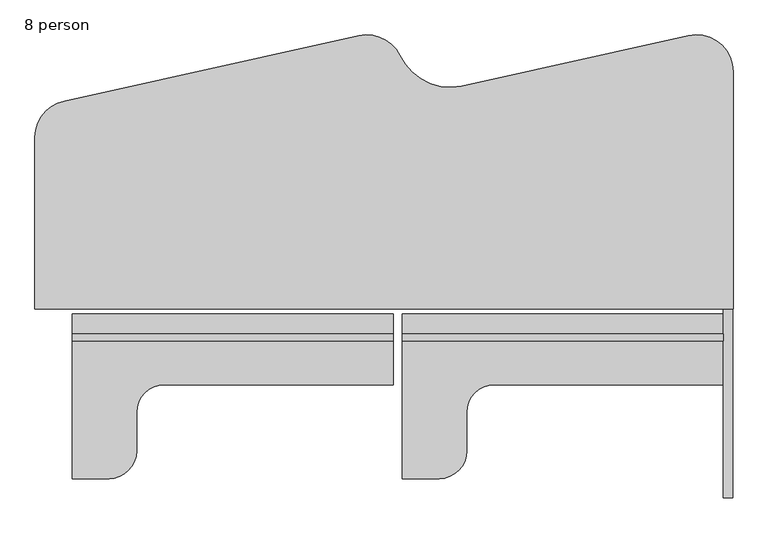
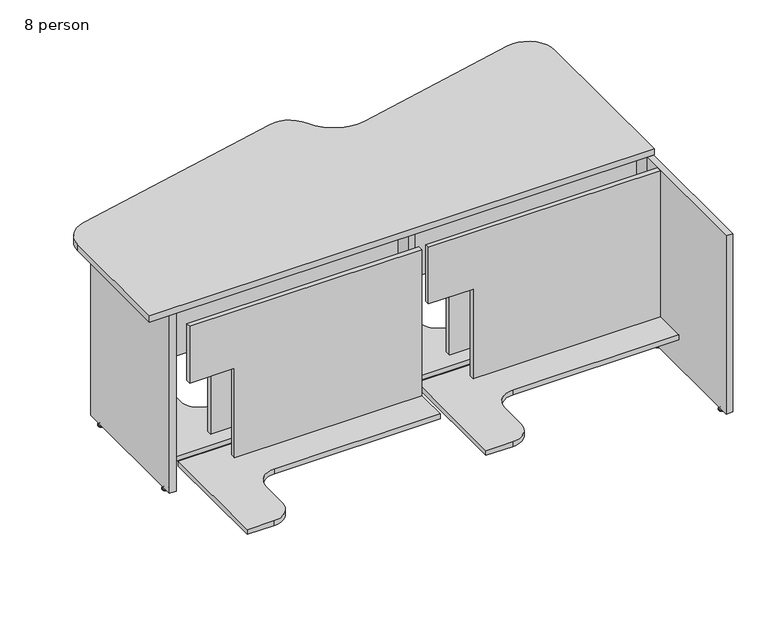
"""IFC4 building model written with IfcOpenShell, lengths in millimetres: furniture geometry, Nova Solutions - Collaboration Table - Keystone_8-11 person : 8 person."""

from ifc_helpers import new_model, si_unit, point, frame, frame_2d, origin, place, context, project, spatial, polyline, circle_curve, ellipse_curve, trimmed, segment, composite_curve, outline, extrude, source, transform, mapped, element, save
from ifc_brep_helpers import plane_surface, cylinder_surface, revolved_surface, advanced_brep


def furniture_8_person_18e800c8(model_context):
    return source(origin(), model_context, "Body", "SolidModel", [
        extrude(outline(polyline([(145.5, 443.55), (736.3, 443.55), (736.3, -443.55), (507.4, -443.55), (507.4, -272.55), (145.5, -272.55), (145.5, 443.55)])), frame((0.0, 69.345, 0.0), z_axis=(0.0, 1.0, 0.0), x_axis=(0.0, 0.0, 1.0)), (0.0, 0.0, 1.0), 19.2),
        extrude(outline(composite_curve([segment(polyline([(443.55, 14.045), (-443.55, 14.045), (-443.55, 469.9075), (-341.95, 469.9075)]), True, "CONTINUOUS"), segment(trimmed(circle_curve(frame_2d((-341.95, 393.7075)), 76.2), [point((-341.95, 469.9075))], [point((-265.75, 393.7075))], False, "CARTESIAN"), True, "CONTINUOUS"), segment(polyline([(-265.75, 393.7075), (-265.75, 286.545)]), True, "CONTINUOUS"), segment(trimmed(circle_curve(frame_2d((-189.55, 286.545)), 76.2), [point((-265.75, 286.545))], [point((-189.55, 210.345))], True, "CARTESIAN"), True, "CONTINUOUS"), segment(polyline([(-189.55, 210.345), (443.55, 210.345), (443.55, 14.045)]), True, "CONTINUOUS")], self_intersect=False)), frame((0.0, 0.0, 126.3), z_axis=(0.0, 0.0, 1.0), x_axis=(1.0, 0.0, 0.0)), (0.0, 0.0, 1.0), 19.2),
        advanced_brep(
        [(463.0776506, 474.3309375, 11.1125), (456.4, 474.3309375, 11.1125), (449.7223494, 474.3309375, 11.1125), (463.0776506, 474.3309375, 9.525), (449.7223494, 474.3309375, 9.525), (468.2855135, 474.3309375, 4.7748687), (444.5144865, 474.3309375, 4.7748687), (469.1466506, 474.3309375, 3.989419), (443.6533494, 474.3309375, 3.989419), (469.1466506, 474.3309375, 3.175), (443.6533494, 474.3309375, 3.175), (468.2959119, 474.3309375, 0.0), (444.5040881, 474.3309375, 0.0), (456.4, 474.3309375, 0.0)],
        [
            (0, 1),
            (1, 2),
            (2, 0, circle_curve(frame((456.4, 474.3309375, 11.1125), z_axis=(0.0, 0.0, 1.0), x_axis=(-1.0, 0.0, 0.0)), 6.6776506)),
            (0, 2, circle_curve(frame((456.4, 474.3309375, 11.1125), z_axis=(0.0, 0.0, 1.0), x_axis=(-1.0, 0.0, 0.0)), 6.6776506)),
            (3, 0),
            (2, 4),
            (4, 3, circle_curve(frame((456.4, 474.3309375, 9.525), z_axis=(0.0, 0.0, 1.0), x_axis=(-1.0, 0.0, 0.0)), 6.6776506)),
            (3, 4, circle_curve(frame((456.4, 474.3309375, 9.525), z_axis=(0.0, 0.0, 1.0), x_axis=(-1.0, 0.0, 0.0)), 6.6776506)),
            (5, 3, circle_curve(frame((469.3320627, 474.3309375, 11.1521822), z_axis=(0.0, 1.0, 0.0), x_axis=(-1.0, 0.0, 0.0)), 6.462615)),
            (4, 6, circle_curve(frame((443.4679373, 474.3309375, 11.1521822), z_axis=(0.0, 1.0, 0.0), x_axis=(1.0, 0.0, 0.0)), 6.462615)),
            (6, 5, circle_curve(frame((456.4, 474.3309375, 4.7748687), z_axis=(0.0, 0.0, 1.0), x_axis=(-1.0, 0.0, 0.0)), 11.8855135)),
            (5, 6, circle_curve(frame((456.4, 474.3309375, 4.7748687), z_axis=(0.0, 0.0, 1.0), x_axis=(-1.0, 0.0, 0.0)), 11.8855135)),
            (7, 5, circle_curve(frame((468.1124632, 474.3309375, 3.7203591), z_axis=(0.0, -1.0, 0.0), x_axis=(-1.0, 0.0, 0.0)), 1.0686145)),
            (6, 8, circle_curve(frame((444.6875368, 474.3309375, 3.7203591), z_axis=(0.0, -1.0, 0.0), x_axis=(1.0, 0.0, 0.0)), 1.0686145)),
            (8, 7, circle_curve(frame((456.4, 474.3309375, 3.989419), z_axis=(0.0, 0.0, 1.0), x_axis=(-1.0, 0.0, 0.0)), 12.7466506)),
            (7, 8, circle_curve(frame((456.4, 474.3309375, 3.989419), z_axis=(0.0, 0.0, 1.0), x_axis=(-1.0, 0.0, 0.0)), 12.7466506)),
            (9, 7),
            (8, 10),
            (10, 9, circle_curve(frame((456.4, 474.3309375, 3.175), z_axis=(0.0, 0.0, 1.0), x_axis=(-1.0, 0.0, 0.0)), 12.7466506)),
            (9, 10, circle_curve(frame((456.4, 474.3309375, 3.175), z_axis=(0.0, 0.0, 1.0), x_axis=(-1.0, 0.0, 0.0)), 12.7466506)),
            (11, 9),
            (10, 12),
            (12, 11, circle_curve(frame((456.4, 474.3309375, 0.0), z_axis=(0.0, 0.0, 1.0), x_axis=(-1.0, 0.0, 0.0)), 11.8959119)),
            (11, 12, circle_curve(frame((456.4, 474.3309375, 0.0), z_axis=(0.0, 0.0, 1.0), x_axis=(-1.0, 0.0, 0.0)), 11.8959119)),
            (13, 11),
            (12, 13),
        ],
        [
            plane_surface(frame((456.4, 474.3309375, 11.1125), z_axis=(0.0, 0.0, 1.0), x_axis=(-1.0, 0.0, 0.0))),
            cylinder_surface(frame((456.4, 474.3309375, 43.2095994), z_axis=(0.0, 0.0, -1.0), x_axis=(-1.0, 0.0, 0.0)), 6.6776506),
            revolved_surface(trimmed(ellipse_curve(frame((443.4679373, 474.3309375, 11.1521822), z_axis=(0.0, 1.0, 0.0), x_axis=(1.0, 0.0, 0.0)), 6.462615, 6.462615), [point((449.7223494, 474.3309375, 9.525))], [point((444.5144865, 474.3309375, 4.7748687))], True, "CARTESIAN"), (456.4, 474.3309375, 43.2095994), (0.0, 0.0, -1.0)),
            revolved_surface(trimmed(ellipse_curve(frame((444.6875368, 474.3309375, 3.7203591), z_axis=(0.0, -1.0, 0.0), x_axis=(1.0, 0.0, 0.0)), 1.0686145, 1.0686145), [point((444.5144865, 474.3309375, 4.7748687))], [point((443.6533494, 474.3309375, 3.989419))], True, "CARTESIAN"), (456.4, 474.3309375, 43.2095994), (0.0, 0.0, -1.0)),
            cylinder_surface(frame((456.4, 474.3309375, 43.2095994), z_axis=(0.0, 0.0, -1.0), x_axis=(-1.0, 0.0, 0.0)), 12.7466506),
            revolved_surface(polyline([(443.6533494, 474.3309375, 3.175), (444.5040881, 474.3309375, 0.0)]), (456.4, 474.3309375, 43.2095994), (0.0, 0.0, -1.0)),
            plane_surface(frame((456.4, 474.3309375, 0.0), z_axis=(0.0, 0.0, -1.0), x_axis=(-1.0, 0.0, 0.0))),
        ],
        [
            (0, [[1, 2, 3]]),
            (0, [[-2, -1, 4]]),
            (1, [[5, -3, 6, 7]]),
            (1, [[-6, -4, -5, 8]]),
            (2, [[9, -7, 10, 11]]),
            (2, [[-10, -8, -9, 12]]),
            (3, [[13, -11, 14, 15]]),
            (3, [[-14, -12, -13, 16]]),
            (4, [[17, -15, 18, 19]]),
            (4, [[-18, -16, -17, 20]]),
            (5, [[21, -19, 22, 23]]),
            (5, [[-22, -20, -21, 24]]),
            (6, [[25, -23, 26]]),
            (6, [[-26, -24, -25]]),
        ],
    ),
        advanced_brep(
        [(463.0776506, 50.3590625, 11.1125), (456.4, 50.3590625, 11.1125), (449.7223494, 50.3590625, 11.1125), (463.0776506, 50.3590625, 9.525), (449.7223494, 50.3590625, 9.525), (468.2855135, 50.3590625, 4.7748687), (444.5144865, 50.3590625, 4.7748687), (469.1466506, 50.3590625, 3.989419), (443.6533494, 50.3590625, 3.989419), (469.1466506, 50.3590625, 3.175), (443.6533494, 50.3590625, 3.175), (468.2959119, 50.3590625, 0.0), (444.5040881, 50.3590625, 0.0), (456.4, 50.3590625, 0.0)],
        [
            (0, 1),
            (1, 2),
            (2, 0, circle_curve(frame((456.4, 50.3590625, 11.1125), z_axis=(0.0, 0.0, 1.0), x_axis=(-1.0, 0.0, 0.0)), 6.6776506)),
            (0, 2, circle_curve(frame((456.4, 50.3590625, 11.1125), z_axis=(0.0, 0.0, 1.0), x_axis=(-1.0, 0.0, 0.0)), 6.6776506)),
            (3, 0),
            (2, 4),
            (4, 3, circle_curve(frame((456.4, 50.3590625, 9.525), z_axis=(0.0, 0.0, 1.0), x_axis=(-1.0, 0.0, 0.0)), 6.6776506)),
            (3, 4, circle_curve(frame((456.4, 50.3590625, 9.525), z_axis=(0.0, 0.0, 1.0), x_axis=(-1.0, 0.0, 0.0)), 6.6776506)),
            (5, 3, circle_curve(frame((469.3320627, 50.3590625, 11.1521822), z_axis=(0.0, 1.0, 0.0), x_axis=(-1.0, 0.0, 0.0)), 6.462615)),
            (4, 6, circle_curve(frame((443.4679373, 50.3590625, 11.1521822), z_axis=(0.0, 1.0, 0.0), x_axis=(1.0, 0.0, 0.0)), 6.462615)),
            (6, 5, circle_curve(frame((456.4, 50.3590625, 4.7748687), z_axis=(0.0, 0.0, 1.0), x_axis=(-1.0, 0.0, 0.0)), 11.8855135)),
            (5, 6, circle_curve(frame((456.4, 50.3590625, 4.7748687), z_axis=(0.0, 0.0, 1.0), x_axis=(-1.0, 0.0, 0.0)), 11.8855135)),
            (7, 5, circle_curve(frame((468.1124632, 50.3590625, 3.7203591), z_axis=(0.0, -1.0, 0.0), x_axis=(-1.0, 0.0, 0.0)), 1.0686145)),
            (6, 8, circle_curve(frame((444.6875368, 50.3590625, 3.7203591), z_axis=(0.0, -1.0, 0.0), x_axis=(1.0, 0.0, 0.0)), 1.0686145)),
            (8, 7, circle_curve(frame((456.4, 50.3590625, 3.989419), z_axis=(0.0, 0.0, 1.0), x_axis=(-1.0, 0.0, 0.0)), 12.7466506)),
            (7, 8, circle_curve(frame((456.4, 50.3590625, 3.989419), z_axis=(0.0, 0.0, 1.0), x_axis=(-1.0, 0.0, 0.0)), 12.7466506)),
            (9, 7),
            (8, 10),
            (10, 9, circle_curve(frame((456.4, 50.3590625, 3.175), z_axis=(0.0, 0.0, 1.0), x_axis=(-1.0, 0.0, 0.0)), 12.7466506)),
            (9, 10, circle_curve(frame((456.4, 50.3590625, 3.175), z_axis=(0.0, 0.0, 1.0), x_axis=(-1.0, 0.0, 0.0)), 12.7466506)),
            (11, 9),
            (10, 12),
            (12, 11, circle_curve(frame((456.4, 50.3590625, 0.0), z_axis=(0.0, 0.0, 1.0), x_axis=(-1.0, 0.0, 0.0)), 11.8959119)),
            (11, 12, circle_curve(frame((456.4, 50.3590625, 0.0), z_axis=(0.0, 0.0, 1.0), x_axis=(-1.0, 0.0, 0.0)), 11.8959119)),
            (13, 11),
            (12, 13),
        ],
        [
            plane_surface(frame((456.4, 50.3590625, 11.1125), z_axis=(0.0, 0.0, 1.0), x_axis=(-1.0, 0.0, 0.0))),
            cylinder_surface(frame((456.4, 50.3590625, 43.2095994), z_axis=(0.0, 0.0, -1.0), x_axis=(-1.0, 0.0, 0.0)), 6.6776506),
            revolved_surface(trimmed(ellipse_curve(frame((443.4679373, 50.3590625, 11.1521822), z_axis=(0.0, 1.0, 0.0), x_axis=(1.0, 0.0, 0.0)), 6.462615, 6.462615), [point((449.7223494, 50.3590625, 9.525))], [point((444.5144865, 50.3590625, 4.7748687))], True, "CARTESIAN"), (456.4, 50.3590625, 43.2095994), (0.0, 0.0, -1.0)),
            revolved_surface(trimmed(ellipse_curve(frame((444.6875368, 50.3590625, 3.7203591), z_axis=(0.0, -1.0, 0.0), x_axis=(1.0, 0.0, 0.0)), 1.0686145, 1.0686145), [point((444.5144865, 50.3590625, 4.7748687))], [point((443.6533494, 50.3590625, 3.989419))], True, "CARTESIAN"), (456.4, 50.3590625, 43.2095994), (0.0, 0.0, -1.0)),
            cylinder_surface(frame((456.4, 50.3590625, 43.2095994), z_axis=(0.0, 0.0, -1.0), x_axis=(-1.0, 0.0, 0.0)), 12.7466506),
            revolved_surface(polyline([(443.6533494, 50.3590625, 3.175), (444.5040881, 50.3590625, 0.0)]), (456.4, 50.3590625, 43.2095994), (0.0, 0.0, -1.0)),
            plane_surface(frame((456.4, 50.3590625, 0.0), z_axis=(0.0, 0.0, -1.0), x_axis=(-1.0, 0.0, 0.0))),
        ],
        [
            (0, [[1, 2, 3]]),
            (0, [[-2, -1, 4]]),
            (1, [[5, -3, 6, 7]]),
            (1, [[-6, -4, -5, 8]]),
            (2, [[9, -7, 10, 11]]),
            (2, [[-10, -8, -9, 12]]),
            (3, [[13, -11, 14, 15]]),
            (3, [[-14, -12, -13, 16]]),
            (4, [[17, -15, 18, 19]]),
            (4, [[-18, -16, -17, 20]]),
            (5, [[21, -19, 22, 23]]),
            (5, [[-22, -20, -21, 24]]),
            (6, [[25, -23, 26]]),
            (6, [[-26, -24, -25]]),
        ],
    ),
        extrude(outline(polyline([(469.25, 1.345), (443.55, 1.345), (443.55, 523.345), (469.25, 523.345), (469.25, 1.345)])), frame((0.0, 0.0, 15.6), z_axis=(0.0, 0.0, 1.0), x_axis=(1.0, 0.0, 0.0)), (0.0, 0.0, 1.0), 720.7),
        extrude(outline(polyline([(736.3, -469.25), (736.3, -1356.45), (507.4, -1356.45), (507.4, -1185.45), (145.5, -1185.45), (145.5, -469.25), (736.3, -469.25)])), frame((0.0, 69.345, 0.0), z_axis=(0.0, 1.0, 0.0), x_axis=(0.0, 0.0, 1.0)), (0.0, 0.0, 1.0), 19.2),
        extrude(outline(composite_curve([segment(polyline([(-1356.45, 469.9075), (-1254.85, 469.9075)]), True, "CONTINUOUS"), segment(trimmed(circle_curve(frame_2d((-1254.85, 393.7075)), 76.2), [point((-1254.85, 469.9075))], [point((-1178.65, 393.7075))], False, "CARTESIAN"), True, "CONTINUOUS"), segment(polyline([(-1178.65, 393.7075), (-1178.65, 286.545)]), True, "CONTINUOUS"), segment(trimmed(circle_curve(frame_2d((-1102.45, 286.545)), 76.2), [point((-1178.65, 286.545))], [point((-1102.45, 210.345))], True, "CARTESIAN"), True, "CONTINUOUS"), segment(polyline([(-1102.45, 210.345), (-469.25, 210.345), (-469.25, 14.045), (-1356.45, 14.045), (-1356.45, 469.9075)]), True, "CONTINUOUS")], self_intersect=False)), frame((0.0, 0.0, 126.3), z_axis=(0.0, 0.0, 1.0), x_axis=(1.0, 0.0, 0.0)), (0.0, 0.0, 1.0), 19.2),
        advanced_brep(
        [(-1375.9776506, 474.3309375, 11.1125), (-1362.6223494, 474.3309375, 11.1125), (-1369.3, 474.3309375, 11.1125), (-1375.9776506, 474.3309375, 9.525), (-1362.6223494, 474.3309375, 9.525), (-1381.1855135, 474.3309375, 4.7748687), (-1357.4144865, 474.3309375, 4.7748687), (-1382.0466506, 474.3309375, 3.989419), (-1356.5533494, 474.3309375, 3.989419), (-1382.0466506, 474.3309375, 3.175), (-1356.5533494, 474.3309375, 3.175), (-1381.1959119, 474.3309375, 0.0), (-1357.4040881, 474.3309375, 0.0), (-1369.3, 474.3309375, 0.0)],
        [
            (0, 1, circle_curve(frame((-1369.3, 474.3309375, 11.1125), z_axis=(0.0, 0.0, 1.0), x_axis=(1.0, 0.0, 0.0)), 6.6776506)),
            (1, 2),
            (2, 0),
            (1, 0, circle_curve(frame((-1369.3, 474.3309375, 11.1125), z_axis=(0.0, 0.0, 1.0), x_axis=(1.0, 0.0, 0.0)), 6.6776506)),
            (3, 4, circle_curve(frame((-1369.3, 474.3309375, 9.525), z_axis=(0.0, 0.0, 1.0), x_axis=(1.0, 0.0, 0.0)), 6.6776506)),
            (4, 1),
            (0, 3),
            (4, 3, circle_curve(frame((-1369.3, 474.3309375, 9.525), z_axis=(0.0, 0.0, 1.0), x_axis=(1.0, 0.0, 0.0)), 6.6776506)),
            (5, 6, circle_curve(frame((-1369.3, 474.3309375, 4.7748687), z_axis=(0.0, 0.0, 1.0), x_axis=(1.0, 0.0, 0.0)), 11.8855135)),
            (6, 4, circle_curve(frame((-1356.3679373, 474.3309375, 11.1521822), z_axis=(0.0, 1.0, 0.0), x_axis=(-1.0, 0.0, 0.0)), 6.462615)),
            (3, 5, circle_curve(frame((-1382.2320627, 474.3309375, 11.1521822), z_axis=(0.0, 1.0, 0.0), x_axis=(1.0, 0.0, 0.0)), 6.462615)),
            (6, 5, circle_curve(frame((-1369.3, 474.3309375, 4.7748687), z_axis=(0.0, 0.0, 1.0), x_axis=(1.0, 0.0, 0.0)), 11.8855135)),
            (7, 8, circle_curve(frame((-1369.3, 474.3309375, 3.989419), z_axis=(0.0, 0.0, 1.0), x_axis=(1.0, 0.0, 0.0)), 12.7466506)),
            (8, 6, circle_curve(frame((-1357.5875368, 474.3309375, 3.7203591), z_axis=(0.0, -1.0, 0.0), x_axis=(-1.0, 0.0, 0.0)), 1.0686145)),
            (5, 7, circle_curve(frame((-1381.0124632, 474.3309375, 3.7203591), z_axis=(0.0, -1.0, 0.0), x_axis=(1.0, 0.0, 0.0)), 1.0686145)),
            (8, 7, circle_curve(frame((-1369.3, 474.3309375, 3.989419), z_axis=(0.0, 0.0, 1.0), x_axis=(1.0, 0.0, 0.0)), 12.7466506)),
            (9, 10, circle_curve(frame((-1369.3, 474.3309375, 3.175), z_axis=(0.0, 0.0, 1.0), x_axis=(1.0, 0.0, 0.0)), 12.7466506)),
            (10, 8),
            (7, 9),
            (10, 9, circle_curve(frame((-1369.3, 474.3309375, 3.175), z_axis=(0.0, 0.0, 1.0), x_axis=(1.0, 0.0, 0.0)), 12.7466506)),
            (11, 12, circle_curve(frame((-1369.3, 474.3309375, 0.0), z_axis=(0.0, 0.0, 1.0), x_axis=(1.0, 0.0, 0.0)), 11.8959119)),
            (12, 10),
            (9, 11),
            (12, 11, circle_curve(frame((-1369.3, 474.3309375, 0.0), z_axis=(0.0, 0.0, 1.0), x_axis=(1.0, 0.0, 0.0)), 11.8959119)),
            (13, 12),
            (11, 13),
        ],
        [
            plane_surface(frame((-1369.3, 474.3309375, 11.1125), z_axis=(0.0, 0.0, 1.0), x_axis=(1.0, 0.0, 0.0))),
            cylinder_surface(frame((-1369.3, 474.3309375, 43.2095994), z_axis=(0.0, 0.0, -1.0), x_axis=(1.0, 0.0, 0.0)), 6.6776506),
            revolved_surface(trimmed(ellipse_curve(frame((-1356.3679373, 474.3309375, 11.1521822), z_axis=(0.0, -1.0, 0.0), x_axis=(-1.0, 0.0, 0.0)), 6.462615, 6.462615), [point((-1362.6223494, 474.3309375, 9.525))], [point((-1357.4144865, 474.3309375, 4.7748687))], True, "CARTESIAN"), (-1369.3, 474.3309375, 43.2095994), (0.0, 0.0, -1.0)),
            revolved_surface(trimmed(ellipse_curve(frame((-1357.5875368, 474.3309375, 3.7203591), z_axis=(0.0, 1.0, 0.0), x_axis=(-1.0, 0.0, 0.0)), 1.0686145, 1.0686145), [point((-1357.4144865, 474.3309375, 4.7748687))], [point((-1356.5533494, 474.3309375, 3.989419))], True, "CARTESIAN"), (-1369.3, 474.3309375, 43.2095994), (0.0, 0.0, -1.0)),
            cylinder_surface(frame((-1369.3, 474.3309375, 43.2095994), z_axis=(0.0, 0.0, -1.0), x_axis=(1.0, 0.0, 0.0)), 12.7466506),
            revolved_surface(polyline([(-1356.5533494, 474.3309375, 3.175), (-1357.4040881, 474.3309375, 0.0)]), (-1369.3, 474.3309375, 43.2095994), (0.0, 0.0, -1.0)),
            plane_surface(frame((-1369.3, 474.3309375, 0.0), z_axis=(0.0, 0.0, -1.0), x_axis=(1.0, 0.0, 0.0))),
        ],
        [
            (0, [[1, 2, 3]]),
            (0, [[4, -3, -2]]),
            (1, [[5, 6, -1, 7]]),
            (1, [[8, -7, -4, -6]]),
            (2, [[9, 10, -5, 11]]),
            (2, [[12, -11, -8, -10]]),
            (3, [[13, 14, -9, 15]]),
            (3, [[16, -15, -12, -14]]),
            (4, [[17, 18, -13, 19]]),
            (4, [[20, -19, -16, -18]]),
            (5, [[21, 22, -17, 23]]),
            (5, [[24, -23, -20, -22]]),
            (6, [[25, -21, 26]]),
            (6, [[-26, -24, -25]]),
        ],
    ),
        advanced_brep(
        [(-1375.9776506, 50.3590625, 11.1125), (-1362.6223494, 50.3590625, 11.1125), (-1369.3, 50.3590625, 11.1125), (-1375.9776506, 50.3590625, 9.525), (-1362.6223494, 50.3590625, 9.525), (-1381.1855135, 50.3590625, 4.7748687), (-1357.4144865, 50.3590625, 4.7748687), (-1382.0466506, 50.3590625, 3.989419), (-1356.5533494, 50.3590625, 3.989419), (-1382.0466506, 50.3590625, 3.175), (-1356.5533494, 50.3590625, 3.175), (-1381.1959119, 50.3590625, 0.0), (-1357.4040881, 50.3590625, 0.0), (-1369.3, 50.3590625, 0.0)],
        [
            (0, 1, circle_curve(frame((-1369.3, 50.3590625, 11.1125), z_axis=(0.0, 0.0, 1.0), x_axis=(1.0, 0.0, 0.0)), 6.6776506)),
            (1, 2),
            (2, 0),
            (1, 0, circle_curve(frame((-1369.3, 50.3590625, 11.1125), z_axis=(0.0, 0.0, 1.0), x_axis=(1.0, 0.0, 0.0)), 6.6776506)),
            (3, 4, circle_curve(frame((-1369.3, 50.3590625, 9.525), z_axis=(0.0, 0.0, 1.0), x_axis=(1.0, 0.0, 0.0)), 6.6776506)),
            (4, 1),
            (0, 3),
            (4, 3, circle_curve(frame((-1369.3, 50.3590625, 9.525), z_axis=(0.0, 0.0, 1.0), x_axis=(1.0, 0.0, 0.0)), 6.6776506)),
            (5, 6, circle_curve(frame((-1369.3, 50.3590625, 4.7748687), z_axis=(0.0, 0.0, 1.0), x_axis=(1.0, 0.0, 0.0)), 11.8855135)),
            (6, 4, circle_curve(frame((-1356.3679373, 50.3590625, 11.1521822), z_axis=(0.0, 1.0, 0.0), x_axis=(-1.0, 0.0, 0.0)), 6.462615)),
            (3, 5, circle_curve(frame((-1382.2320627, 50.3590625, 11.1521822), z_axis=(0.0, 1.0, 0.0), x_axis=(1.0, 0.0, 0.0)), 6.462615)),
            (6, 5, circle_curve(frame((-1369.3, 50.3590625, 4.7748687), z_axis=(0.0, 0.0, 1.0), x_axis=(1.0, 0.0, 0.0)), 11.8855135)),
            (7, 8, circle_curve(frame((-1369.3, 50.3590625, 3.989419), z_axis=(0.0, 0.0, 1.0), x_axis=(1.0, 0.0, 0.0)), 12.7466506)),
            (8, 6, circle_curve(frame((-1357.5875368, 50.3590625, 3.7203591), z_axis=(0.0, -1.0, 0.0), x_axis=(-1.0, 0.0, 0.0)), 1.0686145)),
            (5, 7, circle_curve(frame((-1381.0124632, 50.3590625, 3.7203591), z_axis=(0.0, -1.0, 0.0), x_axis=(1.0, 0.0, 0.0)), 1.0686145)),
            (8, 7, circle_curve(frame((-1369.3, 50.3590625, 3.989419), z_axis=(0.0, 0.0, 1.0), x_axis=(1.0, 0.0, 0.0)), 12.7466506)),
            (9, 10, circle_curve(frame((-1369.3, 50.3590625, 3.175), z_axis=(0.0, 0.0, 1.0), x_axis=(1.0, 0.0, 0.0)), 12.7466506)),
            (10, 8),
            (7, 9),
            (10, 9, circle_curve(frame((-1369.3, 50.3590625, 3.175), z_axis=(0.0, 0.0, 1.0), x_axis=(1.0, 0.0, 0.0)), 12.7466506)),
            (11, 12, circle_curve(frame((-1369.3, 50.3590625, 0.0), z_axis=(0.0, 0.0, 1.0), x_axis=(1.0, 0.0, 0.0)), 11.8959119)),
            (12, 10),
            (9, 11),
            (12, 11, circle_curve(frame((-1369.3, 50.3590625, 0.0), z_axis=(0.0, 0.0, 1.0), x_axis=(1.0, 0.0, 0.0)), 11.8959119)),
            (13, 12),
            (11, 13),
        ],
        [
            plane_surface(frame((-1369.3, 50.3590625, 11.1125), z_axis=(0.0, 0.0, 1.0), x_axis=(1.0, 0.0, 0.0))),
            cylinder_surface(frame((-1369.3, 50.3590625, 43.2095994), z_axis=(0.0, 0.0, -1.0), x_axis=(1.0, 0.0, 0.0)), 6.6776506),
            revolved_surface(trimmed(ellipse_curve(frame((-1356.3679373, 50.3590625, 11.1521822), z_axis=(0.0, -1.0, 0.0), x_axis=(-1.0, 0.0, 0.0)), 6.462615, 6.462615), [point((-1362.6223494, 50.3590625, 9.525))], [point((-1357.4144865, 50.3590625, 4.7748687))], True, "CARTESIAN"), (-1369.3, 50.3590625, 43.2095994), (0.0, 0.0, -1.0)),
            revolved_surface(trimmed(ellipse_curve(frame((-1357.5875368, 50.3590625, 3.7203591), z_axis=(0.0, 1.0, 0.0), x_axis=(-1.0, 0.0, 0.0)), 1.0686145, 1.0686145), [point((-1357.4144865, 50.3590625, 4.7748687))], [point((-1356.5533494, 50.3590625, 3.989419))], True, "CARTESIAN"), (-1369.3, 50.3590625, 43.2095994), (0.0, 0.0, -1.0)),
            cylinder_surface(frame((-1369.3, 50.3590625, 43.2095994), z_axis=(0.0, 0.0, -1.0), x_axis=(1.0, 0.0, 0.0)), 12.7466506),
            revolved_surface(polyline([(-1356.5533494, 50.3590625, 3.175), (-1357.4040881, 50.3590625, 0.0)]), (-1369.3, 50.3590625, 43.2095994), (0.0, 0.0, -1.0)),
            plane_surface(frame((-1369.3, 50.3590625, 0.0), z_axis=(0.0, 0.0, -1.0), x_axis=(1.0, 0.0, 0.0))),
        ],
        [
            (0, [[1, 2, 3]]),
            (0, [[4, -3, -2]]),
            (1, [[5, 6, -1, 7]]),
            (1, [[8, -7, -4, -6]]),
            (2, [[9, 10, -5, 11]]),
            (2, [[12, -11, -8, -10]]),
            (3, [[13, 14, -9, 15]]),
            (3, [[16, -15, -12, -14]]),
            (4, [[17, 18, -13, 19]]),
            (4, [[20, -19, -16, -18]]),
            (5, [[21, 22, -17, 23]]),
            (5, [[24, -23, -20, -22]]),
            (6, [[25, -21, 26]]),
            (6, [[-26, -24, -25]]),
        ],
    ),
        extrude(outline(polyline([(-1382.15, 1.345), (-1382.15, 523.345), (-1356.45, 523.345), (-1356.45, 1.345), (-1382.15, 1.345)])), frame((0.0, 0.0, 15.6), z_axis=(0.0, 0.0, 1.0), x_axis=(1.0, 0.0, 0.0)), (0.0, 0.0, 1.0), 720.7),
        advanced_brep(
        [(-449.7223494, 474.3309375, 11.1125), (-456.4, 474.3309375, 11.1125), (-463.0776506, 474.3309375, 11.1125), (-449.7223494, 474.3309375, 9.525), (-463.0776506, 474.3309375, 9.525), (-444.5144865, 474.3309375, 4.7748687), (-468.2855135, 474.3309375, 4.7748687), (-443.6533494, 474.3309375, 3.989419), (-469.1466506, 474.3309375, 3.989419), (-443.6533494, 474.3309375, 3.175), (-469.1466506, 474.3309375, 3.175), (-444.5040881, 474.3309375, 0.0), (-468.2959119, 474.3309375, 0.0), (-456.4, 474.3309375, 0.0)],
        [
            (0, 1),
            (1, 2),
            (2, 0, circle_curve(frame((-456.4, 474.3309375, 11.1125), z_axis=(0.0, 0.0, 1.0), x_axis=(-1.0, 0.0, 0.0)), 6.6776506)),
            (0, 2, circle_curve(frame((-456.4, 474.3309375, 11.1125), z_axis=(0.0, 0.0, 1.0), x_axis=(-1.0, 0.0, 0.0)), 6.6776506)),
            (3, 0),
            (2, 4),
            (4, 3, circle_curve(frame((-456.4, 474.3309375, 9.525), z_axis=(0.0, 0.0, 1.0), x_axis=(-1.0, 0.0, 0.0)), 6.6776506)),
            (3, 4, circle_curve(frame((-456.4, 474.3309375, 9.525), z_axis=(0.0, 0.0, 1.0), x_axis=(-1.0, 0.0, 0.0)), 6.6776506)),
            (5, 3, circle_curve(frame((-443.4679373, 474.3309375, 11.1521822), z_axis=(0.0, 1.0, 0.0), x_axis=(-1.0, 0.0, 0.0)), 6.462615)),
            (4, 6, circle_curve(frame((-469.3320627, 474.3309375, 11.1521822), z_axis=(0.0, 1.0, 0.0), x_axis=(1.0, 0.0, 0.0)), 6.462615)),
            (6, 5, circle_curve(frame((-456.4, 474.3309375, 4.7748687), z_axis=(0.0, 0.0, 1.0), x_axis=(-1.0, 0.0, 0.0)), 11.8855135)),
            (5, 6, circle_curve(frame((-456.4, 474.3309375, 4.7748687), z_axis=(0.0, 0.0, 1.0), x_axis=(-1.0, 0.0, 0.0)), 11.8855135)),
            (7, 5, circle_curve(frame((-444.6875368, 474.3309375, 3.7203591), z_axis=(0.0, -1.0, 0.0), x_axis=(-1.0, 0.0, 0.0)), 1.0686145)),
            (6, 8, circle_curve(frame((-468.1124632, 474.3309375, 3.7203591), z_axis=(0.0, -1.0, 0.0), x_axis=(1.0, 0.0, 0.0)), 1.0686145)),
            (8, 7, circle_curve(frame((-456.4, 474.3309375, 3.989419), z_axis=(0.0, 0.0, 1.0), x_axis=(-1.0, 0.0, 0.0)), 12.7466506)),
            (7, 8, circle_curve(frame((-456.4, 474.3309375, 3.989419), z_axis=(0.0, 0.0, 1.0), x_axis=(-1.0, 0.0, 0.0)), 12.7466506)),
            (9, 7),
            (8, 10),
            (10, 9, circle_curve(frame((-456.4, 474.3309375, 3.175), z_axis=(0.0, 0.0, 1.0), x_axis=(-1.0, 0.0, 0.0)), 12.7466506)),
            (9, 10, circle_curve(frame((-456.4, 474.3309375, 3.175), z_axis=(0.0, 0.0, 1.0), x_axis=(-1.0, 0.0, 0.0)), 12.7466506)),
            (11, 9),
            (10, 12),
            (12, 11, circle_curve(frame((-456.4, 474.3309375, 0.0), z_axis=(0.0, 0.0, 1.0), x_axis=(-1.0, 0.0, 0.0)), 11.8959119)),
            (11, 12, circle_curve(frame((-456.4, 474.3309375, 0.0), z_axis=(0.0, 0.0, 1.0), x_axis=(-1.0, 0.0, 0.0)), 11.8959119)),
            (13, 11),
            (12, 13),
        ],
        [
            plane_surface(frame((-456.4, 474.3309375, 11.1125), z_axis=(0.0, 0.0, 1.0), x_axis=(-1.0, 0.0, 0.0))),
            cylinder_surface(frame((-456.4, 474.3309375, 43.2095994), z_axis=(0.0, 0.0, -1.0), x_axis=(-1.0, 0.0, 0.0)), 6.6776506),
            revolved_surface(trimmed(ellipse_curve(frame((-469.3320627, 474.3309375, 11.1521822), z_axis=(0.0, 1.0, 0.0), x_axis=(1.0, 0.0, 0.0)), 6.462615, 6.462615), [point((-463.0776506, 474.3309375, 9.525))], [point((-468.2855135, 474.3309375, 4.7748687))], True, "CARTESIAN"), (-456.4, 474.3309375, 43.2095994), (0.0, 0.0, -1.0)),
            revolved_surface(trimmed(ellipse_curve(frame((-468.1124632, 474.3309375, 3.7203591), z_axis=(0.0, -1.0, 0.0), x_axis=(1.0, 0.0, 0.0)), 1.0686145, 1.0686145), [point((-468.2855135, 474.3309375, 4.7748687))], [point((-469.1466506, 474.3309375, 3.989419))], True, "CARTESIAN"), (-456.4, 474.3309375, 43.2095994), (0.0, 0.0, -1.0)),
            cylinder_surface(frame((-456.4, 474.3309375, 43.2095994), z_axis=(0.0, 0.0, -1.0), x_axis=(-1.0, 0.0, 0.0)), 12.7466506),
            revolved_surface(polyline([(-469.1466506, 474.3309375, 3.175), (-468.2959119, 474.3309375, 0.0)]), (-456.4, 474.3309375, 43.2095994), (0.0, 0.0, -1.0)),
            plane_surface(frame((-456.4, 474.3309375, 0.0), z_axis=(0.0, 0.0, -1.0), x_axis=(-1.0, 0.0, 0.0))),
        ],
        [
            (0, [[1, 2, 3]]),
            (0, [[-2, -1, 4]]),
            (1, [[5, -3, 6, 7]]),
            (1, [[-6, -4, -5, 8]]),
            (2, [[9, -7, 10, 11]]),
            (2, [[-10, -8, -9, 12]]),
            (3, [[13, -11, 14, 15]]),
            (3, [[-14, -12, -13, 16]]),
            (4, [[17, -15, 18, 19]]),
            (4, [[-18, -16, -17, 20]]),
            (5, [[21, -19, 22, 23]]),
            (5, [[-22, -20, -21, 24]]),
            (6, [[25, -23, 26]]),
            (6, [[-26, -24, -25]]),
        ],
    ),
        advanced_brep(
        [(-449.7223494, 50.3590625, 11.1125), (-456.4, 50.3590625, 11.1125), (-463.0776506, 50.3590625, 11.1125), (-449.7223494, 50.3590625, 9.525), (-463.0776506, 50.3590625, 9.525), (-444.5144865, 50.3590625, 4.7748687), (-468.2855135, 50.3590625, 4.7748687), (-443.6533494, 50.3590625, 3.989419), (-469.1466506, 50.3590625, 3.989419), (-443.6533494, 50.3590625, 3.175), (-469.1466506, 50.3590625, 3.175), (-444.5040881, 50.3590625, 0.0), (-468.2959119, 50.3590625, 0.0), (-456.4, 50.3590625, 0.0)],
        [
            (0, 1),
            (1, 2),
            (2, 0, circle_curve(frame((-456.4, 50.3590625, 11.1125), z_axis=(0.0, 0.0, 1.0), x_axis=(-1.0, 0.0, 0.0)), 6.6776506)),
            (0, 2, circle_curve(frame((-456.4, 50.3590625, 11.1125), z_axis=(0.0, 0.0, 1.0), x_axis=(-1.0, 0.0, 0.0)), 6.6776506)),
            (3, 0),
            (2, 4),
            (4, 3, circle_curve(frame((-456.4, 50.3590625, 9.525), z_axis=(0.0, 0.0, 1.0), x_axis=(-1.0, 0.0, 0.0)), 6.6776506)),
            (3, 4, circle_curve(frame((-456.4, 50.3590625, 9.525), z_axis=(0.0, 0.0, 1.0), x_axis=(-1.0, 0.0, 0.0)), 6.6776506)),
            (5, 3, circle_curve(frame((-443.4679373, 50.3590625, 11.1521822), z_axis=(0.0, 1.0, 0.0), x_axis=(-1.0, 0.0, 0.0)), 6.462615)),
            (4, 6, circle_curve(frame((-469.3320627, 50.3590625, 11.1521822), z_axis=(0.0, 1.0, 0.0), x_axis=(1.0, 0.0, 0.0)), 6.462615)),
            (6, 5, circle_curve(frame((-456.4, 50.3590625, 4.7748687), z_axis=(0.0, 0.0, 1.0), x_axis=(-1.0, 0.0, 0.0)), 11.8855135)),
            (5, 6, circle_curve(frame((-456.4, 50.3590625, 4.7748687), z_axis=(0.0, 0.0, 1.0), x_axis=(-1.0, 0.0, 0.0)), 11.8855135)),
            (7, 5, circle_curve(frame((-444.6875368, 50.3590625, 3.7203591), z_axis=(0.0, -1.0, 0.0), x_axis=(-1.0, 0.0, 0.0)), 1.0686145)),
            (6, 8, circle_curve(frame((-468.1124632, 50.3590625, 3.7203591), z_axis=(0.0, -1.0, 0.0), x_axis=(1.0, 0.0, 0.0)), 1.0686145)),
            (8, 7, circle_curve(frame((-456.4, 50.3590625, 3.989419), z_axis=(0.0, 0.0, 1.0), x_axis=(-1.0, 0.0, 0.0)), 12.7466506)),
            (7, 8, circle_curve(frame((-456.4, 50.3590625, 3.989419), z_axis=(0.0, 0.0, 1.0), x_axis=(-1.0, 0.0, 0.0)), 12.7466506)),
            (9, 7),
            (8, 10),
            (10, 9, circle_curve(frame((-456.4, 50.3590625, 3.175), z_axis=(0.0, 0.0, 1.0), x_axis=(-1.0, 0.0, 0.0)), 12.7466506)),
            (9, 10, circle_curve(frame((-456.4, 50.3590625, 3.175), z_axis=(0.0, 0.0, 1.0), x_axis=(-1.0, 0.0, 0.0)), 12.7466506)),
            (11, 9),
            (10, 12),
            (12, 11, circle_curve(frame((-456.4, 50.3590625, 0.0), z_axis=(0.0, 0.0, 1.0), x_axis=(-1.0, 0.0, 0.0)), 11.8959119)),
            (11, 12, circle_curve(frame((-456.4, 50.3590625, 0.0), z_axis=(0.0, 0.0, 1.0), x_axis=(-1.0, 0.0, 0.0)), 11.8959119)),
            (13, 11),
            (12, 13),
        ],
        [
            plane_surface(frame((-456.4, 50.3590625, 11.1125), z_axis=(0.0, 0.0, 1.0), x_axis=(-1.0, 0.0, 0.0))),
            cylinder_surface(frame((-456.4, 50.3590625, 43.2095994), z_axis=(0.0, 0.0, -1.0), x_axis=(-1.0, 0.0, 0.0)), 6.6776506),
            revolved_surface(trimmed(ellipse_curve(frame((-469.3320627, 50.3590625, 11.1521822), z_axis=(0.0, 1.0, 0.0), x_axis=(1.0, 0.0, 0.0)), 6.462615, 6.462615), [point((-463.0776506, 50.3590625, 9.525))], [point((-468.2855135, 50.3590625, 4.7748687))], True, "CARTESIAN"), (-456.4, 50.3590625, 43.2095994), (0.0, 0.0, -1.0)),
            revolved_surface(trimmed(ellipse_curve(frame((-468.1124632, 50.3590625, 3.7203591), z_axis=(0.0, -1.0, 0.0), x_axis=(1.0, 0.0, 0.0)), 1.0686145, 1.0686145), [point((-468.2855135, 50.3590625, 4.7748687))], [point((-469.1466506, 50.3590625, 3.989419))], True, "CARTESIAN"), (-456.4, 50.3590625, 43.2095994), (0.0, 0.0, -1.0)),
            cylinder_surface(frame((-456.4, 50.3590625, 43.2095994), z_axis=(0.0, 0.0, -1.0), x_axis=(-1.0, 0.0, 0.0)), 12.7466506),
            revolved_surface(polyline([(-469.1466506, 50.3590625, 3.175), (-468.2959119, 50.3590625, 0.0)]), (-456.4, 50.3590625, 43.2095994), (0.0, 0.0, -1.0)),
            plane_surface(frame((-456.4, 50.3590625, 0.0), z_axis=(0.0, 0.0, -1.0), x_axis=(-1.0, 0.0, 0.0))),
        ],
        [
            (0, [[1, 2, 3]]),
            (0, [[-2, -1, 4]]),
            (1, [[5, -3, 6, 7]]),
            (1, [[-6, -4, -5, 8]]),
            (2, [[9, -7, 10, 11]]),
            (2, [[-10, -8, -9, 12]]),
            (3, [[13, -11, 14, 15]]),
            (3, [[-14, -12, -13, 16]]),
            (4, [[17, -15, 18, 19]]),
            (4, [[-18, -16, -17, 20]]),
            (5, [[21, -19, 22, 23]]),
            (5, [[-22, -20, -21, 24]]),
            (6, [[25, -23, 26]]),
            (6, [[-26, -24, -25]]),
        ],
    ),
        extrude(outline(polyline([(-443.55, 1.345), (-469.25, 1.345), (-469.25, 523.345), (-443.55, 523.345), (-443.55, 1.345)])), frame((0.0, 0.0, 15.6), z_axis=(0.0, 0.0, 1.0), x_axis=(1.0, 0.0, 0.0)), (0.0, 0.0, 1.0), 720.7),
        extrude(outline(composite_curve([segment(polyline([(470.65, 0.0), (-1459.7251452, 0.0), (-1459.7251452, 474.4632633)]), True, "CONTINUOUS"), segment(trimmed(circle_curve(frame_2d((-1358.2251452, 474.4632633)), 101.5), [point((-1459.7251452, 474.4632633))], [point((-1377.1758236, 574.1784667))], False, "CARTESIAN"), True, "CONTINUOUS"), segment(polyline([(-1377.1758236, 574.1784667), (-563.6827884, 755.6229945)]), True, "CONTINUOUS"), segment(trimmed(circle_curve(frame_2d((-541.5867994, 656.5572725)), 101.5), [point((-563.6827884, 755.6229945))], [point((-450.9850666, 702.3128843))], False, "CARTESIAN"), True, "CONTINUOUS"), segment(trimmed(circle_curve(frame_2d((-312.3069689, 765.5121345)), 152.4), [point((-450.9850666, 702.3128843))], [point((-279.3215717, 616.724623))], True, "CARTESIAN"), True, "CONTINUOUS"), segment(polyline([(-279.3215717, 616.724623), (347.1813792, 755.6169834)]), True, "CONTINUOUS"), segment(trimmed(circle_curve(frame_2d((369.15, 656.5229386)), 101.5), [point((347.1813792, 755.6169834))], [point((470.65, 656.5229386))], False, "CARTESIAN"), True, "CONTINUOUS"), segment(polyline([(470.65, 656.5229386), (470.65, 0.0)]), True, "CONTINUOUS")], self_intersect=False)), frame((0.0, 0.0, 736.3), z_axis=(0.0, 0.0, 1.0), x_axis=(1.0, 0.0, 0.0)), (0.0, 0.0, 1.0), 25.7),
        extrude(outline(polyline([(736.3, 443.55), (736.3, -443.55), (507.4, -443.55), (507.4, -272.55), (145.5, -272.55), (145.5, 443.55), (736.3, 443.55)])), frame((0.0, -88.545, 0.0), z_axis=(0.0, 1.0, 0.0), x_axis=(0.0, 0.0, 1.0)), (0.0, 0.0, 1.0), 19.2),
        extrude(outline(composite_curve([segment(polyline([(443.55, -14.045), (443.55, -210.345), (-189.55, -210.345)]), True, "CONTINUOUS"), segment(trimmed(circle_curve(frame_2d((-189.55, -286.545)), 76.2), [point((-189.55, -210.345))], [point((-265.75, -286.545))], True, "CARTESIAN"), True, "CONTINUOUS"), segment(polyline([(-265.75, -286.545), (-265.75, -393.7075)]), True, "CONTINUOUS"), segment(trimmed(circle_curve(frame_2d((-341.95, -393.7075)), 76.2), [point((-265.75, -393.7075))], [point((-341.95, -469.9075))], False, "CARTESIAN"), True, "CONTINUOUS"), segment(polyline([(-341.95, -469.9075), (-443.55, -469.9075), (-443.55, -14.045), (443.55, -14.045)]), True, "CONTINUOUS")], self_intersect=False)), frame((0.0, 0.0, 126.3), z_axis=(0.0, 0.0, 1.0), x_axis=(1.0, 0.0, 0.0)), (0.0, 0.0, 1.0), 19.2),
        advanced_brep(
        [(463.0776506, -474.3309375, 11.1125), (449.7223494, -474.3309375, 11.1125), (456.4, -474.3309375, 11.1125), (463.0776506, -474.3309375, 9.525), (449.7223494, -474.3309375, 9.525), (468.2855135, -474.3309375, 4.7748687), (444.5144865, -474.3309375, 4.7748687), (469.1466506, -474.3309375, 3.989419), (443.6533494, -474.3309375, 3.989419), (469.1466506, -474.3309375, 3.175), (443.6533494, -474.3309375, 3.175), (468.2959119, -474.3309375, 0.0), (444.5040881, -474.3309375, 0.0), (456.4, -474.3309375, 0.0)],
        [
            (0, 1, circle_curve(frame((456.4, -474.3309375, 11.1125), z_axis=(0.0, 0.0, 1.0), x_axis=(-1.0, 0.0, 0.0)), 6.6776506)),
            (1, 2),
            (2, 0),
            (1, 0, circle_curve(frame((456.4, -474.3309375, 11.1125), z_axis=(0.0, 0.0, 1.0), x_axis=(-1.0, 0.0, 0.0)), 6.6776506)),
            (3, 4, circle_curve(frame((456.4, -474.3309375, 9.525), z_axis=(0.0, 0.0, 1.0), x_axis=(-1.0, 0.0, 0.0)), 6.6776506)),
            (4, 1),
            (0, 3),
            (4, 3, circle_curve(frame((456.4, -474.3309375, 9.525), z_axis=(0.0, 0.0, 1.0), x_axis=(-1.0, 0.0, 0.0)), 6.6776506)),
            (5, 6, circle_curve(frame((456.4, -474.3309375, 4.7748687), z_axis=(0.0, 0.0, 1.0), x_axis=(-1.0, 0.0, 0.0)), 11.8855135)),
            (6, 4, circle_curve(frame((443.4679373, -474.3309375, 11.1521822), z_axis=(0.0, -1.0, 0.0), x_axis=(1.0, 0.0, 0.0)), 6.462615)),
            (3, 5, circle_curve(frame((469.3320627, -474.3309375, 11.1521822), z_axis=(0.0, -1.0, 0.0), x_axis=(-1.0, 0.0, 0.0)), 6.462615)),
            (6, 5, circle_curve(frame((456.4, -474.3309375, 4.7748687), z_axis=(0.0, 0.0, 1.0), x_axis=(-1.0, 0.0, 0.0)), 11.8855135)),
            (7, 8, circle_curve(frame((456.4, -474.3309375, 3.989419), z_axis=(0.0, 0.0, 1.0), x_axis=(-1.0, 0.0, 0.0)), 12.7466506)),
            (8, 6, circle_curve(frame((444.6875368, -474.3309375, 3.7203591), z_axis=(0.0, 1.0, 0.0), x_axis=(1.0, 0.0, 0.0)), 1.0686145)),
            (5, 7, circle_curve(frame((468.1124632, -474.3309375, 3.7203591), z_axis=(0.0, 1.0, 0.0), x_axis=(-1.0, 0.0, 0.0)), 1.0686145)),
            (8, 7, circle_curve(frame((456.4, -474.3309375, 3.989419), z_axis=(0.0, 0.0, 1.0), x_axis=(-1.0, 0.0, 0.0)), 12.7466506)),
            (9, 10, circle_curve(frame((456.4, -474.3309375, 3.175), z_axis=(0.0, 0.0, 1.0), x_axis=(-1.0, 0.0, 0.0)), 12.7466506)),
            (10, 8),
            (7, 9),
            (10, 9, circle_curve(frame((456.4, -474.3309375, 3.175), z_axis=(0.0, 0.0, 1.0), x_axis=(-1.0, 0.0, 0.0)), 12.7466506)),
            (11, 12, circle_curve(frame((456.4, -474.3309375, 0.0), z_axis=(0.0, 0.0, 1.0), x_axis=(-1.0, 0.0, 0.0)), 11.8959119)),
            (12, 10),
            (9, 11),
            (12, 11, circle_curve(frame((456.4, -474.3309375, 0.0), z_axis=(0.0, 0.0, 1.0), x_axis=(-1.0, 0.0, 0.0)), 11.8959119)),
            (13, 12),
            (11, 13),
        ],
        [
            plane_surface(frame((456.4, -474.3309375, 11.1125), z_axis=(0.0, 0.0, 1.0), x_axis=(-1.0, 0.0, 0.0))),
            cylinder_surface(frame((456.4, -474.3309375, 43.2095994), z_axis=(0.0, 0.0, -1.0), x_axis=(-1.0, 0.0, 0.0)), 6.6776506),
            revolved_surface(trimmed(ellipse_curve(frame((443.4679373, -474.3309375, 11.1521822), z_axis=(0.0, 1.0, 0.0), x_axis=(1.0, 0.0, 0.0)), 6.462615, 6.462615), [point((449.7223494, -474.3309375, 9.525))], [point((444.5144865, -474.3309375, 4.7748687))], True, "CARTESIAN"), (456.4, -474.3309375, 43.2095994), (0.0, 0.0, -1.0)),
            revolved_surface(trimmed(ellipse_curve(frame((444.6875368, -474.3309375, 3.7203591), z_axis=(0.0, -1.0, 0.0), x_axis=(1.0, 0.0, 0.0)), 1.0686145, 1.0686145), [point((444.5144865, -474.3309375, 4.7748687))], [point((443.6533494, -474.3309375, 3.989419))], True, "CARTESIAN"), (456.4, -474.3309375, 43.2095994), (0.0, 0.0, -1.0)),
            cylinder_surface(frame((456.4, -474.3309375, 43.2095994), z_axis=(0.0, 0.0, -1.0), x_axis=(-1.0, 0.0, 0.0)), 12.7466506),
            revolved_surface(polyline([(443.6533494, -474.3309375, 3.175), (444.5040881, -474.3309375, 0.0)]), (456.4, -474.3309375, 43.2095994), (0.0, 0.0, -1.0)),
            plane_surface(frame((456.4, -474.3309375, 0.0), z_axis=(0.0, 0.0, -1.0), x_axis=(-1.0, 0.0, 0.0))),
        ],
        [
            (0, [[1, 2, 3]]),
            (0, [[4, -3, -2]]),
            (1, [[5, 6, -1, 7]]),
            (1, [[8, -7, -4, -6]]),
            (2, [[9, 10, -5, 11]]),
            (2, [[12, -11, -8, -10]]),
            (3, [[13, 14, -9, 15]]),
            (3, [[16, -15, -12, -14]]),
            (4, [[17, 18, -13, 19]]),
            (4, [[20, -19, -16, -18]]),
            (5, [[21, 22, -17, 23]]),
            (5, [[24, -23, -20, -22]]),
            (6, [[25, -21, 26]]),
            (6, [[-26, -24, -25]]),
        ],
    ),
        advanced_brep(
        [(463.0776506, -50.3590625, 11.1125), (449.7223494, -50.3590625, 11.1125), (456.4, -50.3590625, 11.1125), (463.0776506, -50.3590625, 9.525), (449.7223494, -50.3590625, 9.525), (468.2855135, -50.3590625, 4.7748687), (444.5144865, -50.3590625, 4.7748687), (469.1466506, -50.3590625, 3.989419), (443.6533494, -50.3590625, 3.989419), (469.1466506, -50.3590625, 3.175), (443.6533494, -50.3590625, 3.175), (468.2959119, -50.3590625, 0.0), (444.5040881, -50.3590625, 0.0), (456.4, -50.3590625, 0.0)],
        [
            (0, 1, circle_curve(frame((456.4, -50.3590625, 11.1125), z_axis=(0.0, 0.0, 1.0), x_axis=(-1.0, 0.0, 0.0)), 6.6776506)),
            (1, 2),
            (2, 0),
            (1, 0, circle_curve(frame((456.4, -50.3590625, 11.1125), z_axis=(0.0, 0.0, 1.0), x_axis=(-1.0, 0.0, 0.0)), 6.6776506)),
            (3, 4, circle_curve(frame((456.4, -50.3590625, 9.525), z_axis=(0.0, 0.0, 1.0), x_axis=(-1.0, 0.0, 0.0)), 6.6776506)),
            (4, 1),
            (0, 3),
            (4, 3, circle_curve(frame((456.4, -50.3590625, 9.525), z_axis=(0.0, 0.0, 1.0), x_axis=(-1.0, 0.0, 0.0)), 6.6776506)),
            (5, 6, circle_curve(frame((456.4, -50.3590625, 4.7748687), z_axis=(0.0, 0.0, 1.0), x_axis=(-1.0, 0.0, 0.0)), 11.8855135)),
            (6, 4, circle_curve(frame((443.4679373, -50.3590625, 11.1521822), z_axis=(0.0, -1.0, 0.0), x_axis=(1.0, 0.0, 0.0)), 6.462615)),
            (3, 5, circle_curve(frame((469.3320627, -50.3590625, 11.1521822), z_axis=(0.0, -1.0, 0.0), x_axis=(-1.0, 0.0, 0.0)), 6.462615)),
            (6, 5, circle_curve(frame((456.4, -50.3590625, 4.7748687), z_axis=(0.0, 0.0, 1.0), x_axis=(-1.0, 0.0, 0.0)), 11.8855135)),
            (7, 8, circle_curve(frame((456.4, -50.3590625, 3.989419), z_axis=(0.0, 0.0, 1.0), x_axis=(-1.0, 0.0, 0.0)), 12.7466506)),
            (8, 6, circle_curve(frame((444.6875368, -50.3590625, 3.7203591), z_axis=(0.0, 1.0, 0.0), x_axis=(1.0, 0.0, 0.0)), 1.0686145)),
            (5, 7, circle_curve(frame((468.1124632, -50.3590625, 3.7203591), z_axis=(0.0, 1.0, 0.0), x_axis=(-1.0, 0.0, 0.0)), 1.0686145)),
            (8, 7, circle_curve(frame((456.4, -50.3590625, 3.989419), z_axis=(0.0, 0.0, 1.0), x_axis=(-1.0, 0.0, 0.0)), 12.7466506)),
            (9, 10, circle_curve(frame((456.4, -50.3590625, 3.175), z_axis=(0.0, 0.0, 1.0), x_axis=(-1.0, 0.0, 0.0)), 12.7466506)),
            (10, 8),
            (7, 9),
            (10, 9, circle_curve(frame((456.4, -50.3590625, 3.175), z_axis=(0.0, 0.0, 1.0), x_axis=(-1.0, 0.0, 0.0)), 12.7466506)),
            (11, 12, circle_curve(frame((456.4, -50.3590625, 0.0), z_axis=(0.0, 0.0, 1.0), x_axis=(-1.0, 0.0, 0.0)), 11.8959119)),
            (12, 10),
            (9, 11),
            (12, 11, circle_curve(frame((456.4, -50.3590625, 0.0), z_axis=(0.0, 0.0, 1.0), x_axis=(-1.0, 0.0, 0.0)), 11.8959119)),
            (13, 12),
            (11, 13),
        ],
        [
            plane_surface(frame((456.4, -50.3590625, 11.1125), z_axis=(0.0, 0.0, 1.0), x_axis=(-1.0, 0.0, 0.0))),
            cylinder_surface(frame((456.4, -50.3590625, 43.2095994), z_axis=(0.0, 0.0, -1.0), x_axis=(-1.0, 0.0, 0.0)), 6.6776506),
            revolved_surface(trimmed(ellipse_curve(frame((443.4679373, -50.3590625, 11.1521822), z_axis=(0.0, 1.0, 0.0), x_axis=(1.0, 0.0, 0.0)), 6.462615, 6.462615), [point((449.7223494, -50.3590625, 9.525))], [point((444.5144865, -50.3590625, 4.7748687))], True, "CARTESIAN"), (456.4, -50.3590625, 43.2095994), (0.0, 0.0, -1.0)),
            revolved_surface(trimmed(ellipse_curve(frame((444.6875368, -50.3590625, 3.7203591), z_axis=(0.0, -1.0, 0.0), x_axis=(1.0, 0.0, 0.0)), 1.0686145, 1.0686145), [point((444.5144865, -50.3590625, 4.7748687))], [point((443.6533494, -50.3590625, 3.989419))], True, "CARTESIAN"), (456.4, -50.3590625, 43.2095994), (0.0, 0.0, -1.0)),
            cylinder_surface(frame((456.4, -50.3590625, 43.2095994), z_axis=(0.0, 0.0, -1.0), x_axis=(-1.0, 0.0, 0.0)), 12.7466506),
            revolved_surface(polyline([(443.6533494, -50.3590625, 3.175), (444.5040881, -50.3590625, 0.0)]), (456.4, -50.3590625, 43.2095994), (0.0, 0.0, -1.0)),
            plane_surface(frame((456.4, -50.3590625, 0.0), z_axis=(0.0, 0.0, -1.0), x_axis=(-1.0, 0.0, 0.0))),
        ],
        [
            (0, [[1, 2, 3]]),
            (0, [[4, -3, -2]]),
            (1, [[5, 6, -1, 7]]),
            (1, [[8, -7, -4, -6]]),
            (2, [[9, 10, -5, 11]]),
            (2, [[12, -11, -8, -10]]),
            (3, [[13, 14, -9, 15]]),
            (3, [[16, -15, -12, -14]]),
            (4, [[17, 18, -13, 19]]),
            (4, [[20, -19, -16, -18]]),
            (5, [[21, 22, -17, 23]]),
            (5, [[24, -23, -20, -22]]),
            (6, [[25, -21, 26]]),
            (6, [[-26, -24, -25]]),
        ],
    ),
        extrude(outline(polyline([(469.25, -1.345), (469.25, -523.345), (443.55, -523.345), (443.55, -1.345), (469.25, -1.345)])), frame((0.0, 0.0, 15.6), z_axis=(0.0, 0.0, 1.0), x_axis=(1.0, 0.0, 0.0)), (0.0, 0.0, 1.0), 720.7),
        extrude(outline(polyline([(145.5, -469.25), (736.3, -469.25), (736.3, -1356.45), (507.4, -1356.45), (507.4, -1185.45), (145.5, -1185.45), (145.5, -469.25)])), frame((0.0, -88.545, 0.0), z_axis=(0.0, 1.0, 0.0), x_axis=(0.0, 0.0, 1.0)), (0.0, 0.0, 1.0), 19.2),
        extrude(outline(composite_curve([segment(polyline([(-1356.45, -469.9075), (-1356.45, -14.045), (-469.25, -14.045), (-469.25, -210.345), (-1102.45, -210.345)]), True, "CONTINUOUS"), segment(trimmed(circle_curve(frame_2d((-1102.45, -286.545)), 76.2), [point((-1102.45, -210.345))], [point((-1178.65, -286.545))], True, "CARTESIAN"), True, "CONTINUOUS"), segment(polyline([(-1178.65, -286.545), (-1178.65, -393.7075)]), True, "CONTINUOUS"), segment(trimmed(circle_curve(frame_2d((-1254.85, -393.7075)), 76.2), [point((-1178.65, -393.7075))], [point((-1254.85, -469.9075))], False, "CARTESIAN"), True, "CONTINUOUS"), segment(polyline([(-1254.85, -469.9075), (-1356.45, -469.9075)]), True, "CONTINUOUS")], self_intersect=False)), frame((0.0, 0.0, 126.3), z_axis=(0.0, 0.0, 1.0), x_axis=(1.0, 0.0, 0.0)), (0.0, 0.0, 1.0), 19.2),
    ])


if __name__ == "__main__":
    model = new_model("IFC4")
    model_context = context("Model", 3, world=origin())
    ifc_project = project(units=[si_unit("LENGTHUNIT", "METRE", prefix="MILLI")], contexts=[model_context])
    site = spatial("IfcSite", under=ifc_project)
    building = spatial("IfcBuilding", under=site)
    placement = place(None, origin())
    furniture_8_person_shape = furniture_8_person_18e800c8(model_context)
    element("IfcFurniture", 1, ObjectType="Nova Solutions - Collaboration Table - Keystone_8-11 person : 8 person", at=placement, inside=building, context=model_context, shape_type="MappedRepresentation", body=[
        mapped(furniture_8_person_shape, transform((0.0, 0.0, 0.0), x_axis=(1.0, 0.0, 0.0), y_axis=(0.0, 1.0, 0.0), z_axis=(0.0, 0.0, 1.0))),
    ])
    save(model, "model.ifc")
